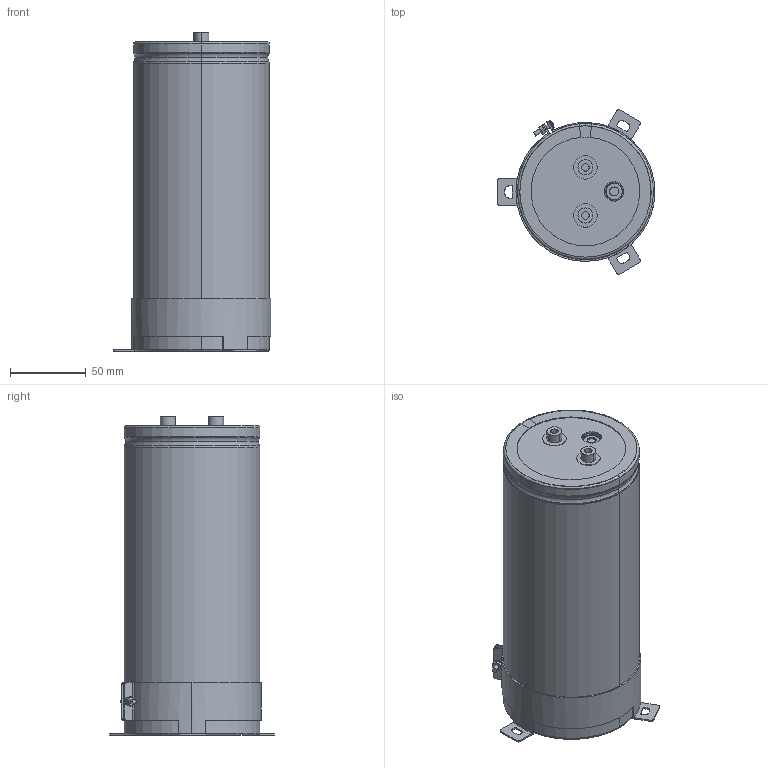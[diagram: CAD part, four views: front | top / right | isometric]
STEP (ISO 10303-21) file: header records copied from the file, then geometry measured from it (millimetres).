
FILE_DESCRIPTION(('STEP AP214'),'1');
FILE_NAME('90x205_Screw.stp','2022-03-14T08:46:56',(' '),(' '),'Spatial InterOp 3D',' ',' ');
FILE_SCHEMA(('AUTOMOTIVE_DESIGN { 1 0 10303 214 1 1 1 1 }'));
Length unit declared in the file: metre
Products named in the file (10): 90x205_Screw; Component1; Component2; Component3; Component4; Component5; Component6; Component7; Component8; Component9
Assembly tree (9 placements, depth 2):
  90x205_Screw
    Component1
    Component2
    Component3
    Component4
    Component5
    Component6
    Component7
    Component8
    Component9
Bounding box: 104.5 x 108.86 x 211 mm (x, y, z)
Volume: 1306714 mm3; surface area: 213077.4 mm2
Topology: 9 solids, 9 shells, 352 faces, 873 edges, 551 vertices
Faces by surface type: plane 112, cylinder 110, torus 90, cone 38, sphere 2
Entity records: 11474 total; most frequent: DIRECTION 2126, CARTESIAN_POINT 1918, ORIENTED_EDGE 1746, AXIS2_PLACEMENT_3D 919, EDGE_CURVE 873, VERTEX_POINT 551, CIRCLE 511, EDGE_LOOP 380
